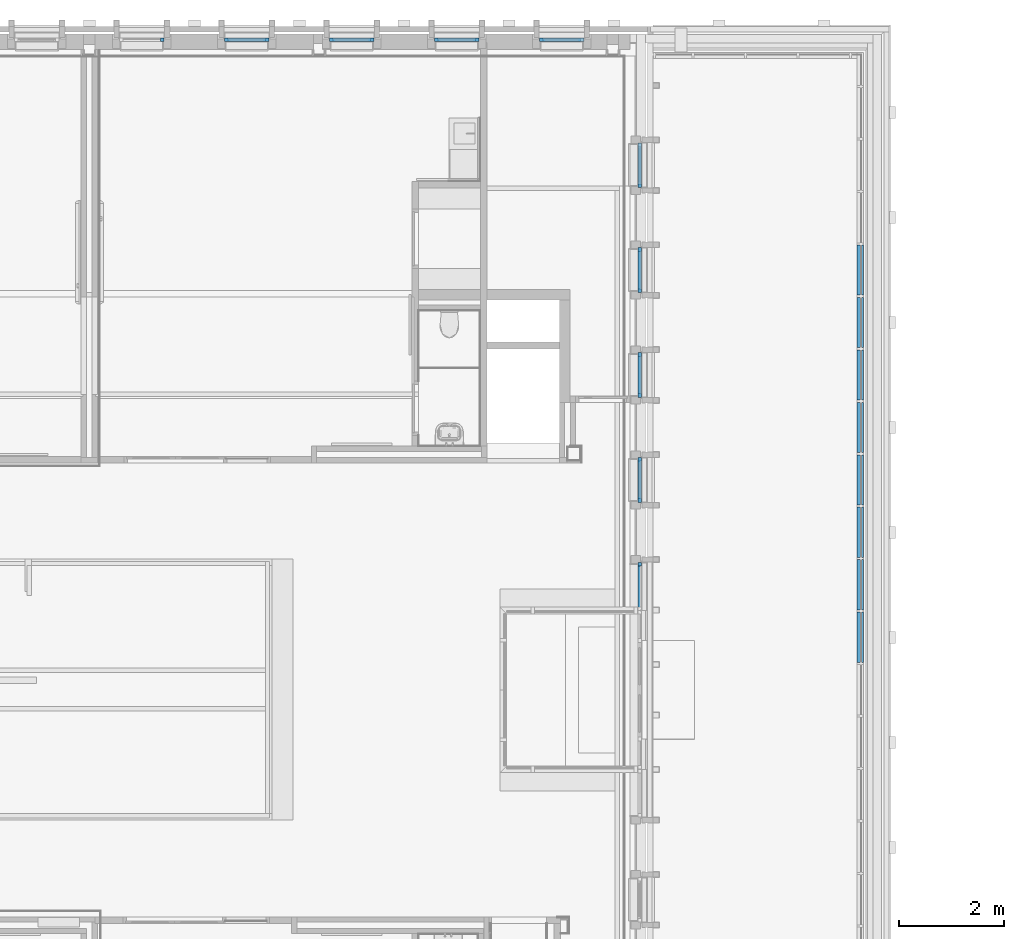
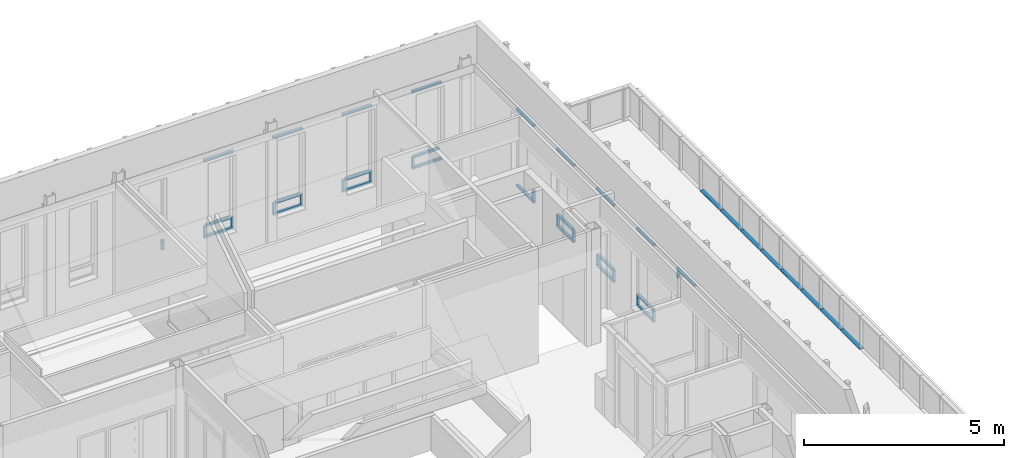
# One storey, part 15 of 118: 48 members, 11 elements without a shape of their own.
"""IFC2X3 building model written with IfcOpenShell, lengths in millimetres."""

from ifc_helpers import new_model, entity, si_unit, converted_unit, derived_unit, direction, frame, origin, origin_2d_with_axis, place, context, subcontext, project, spatial, rectangle, extrude, source, transform, mapped, material, material_list, type_object, type_shapes, element, aggregate, save


model = new_model("IFC2X3")

# Units and contexts
model_context = context("Model", 3, precision=0.01, world=origin(), true_north=direction((6.123031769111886e-17, 1.0)))
plan_context = context("Plan", 3, precision=0.01, world=origin(), true_north=direction((6.123031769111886e-17, 1.0)))
body_context = subcontext(model_context, "Body", "Model", "MODEL_VIEW")
ifc_project = project(units=[si_unit("LENGTHUNIT", "METRE", prefix="MILLI"), si_unit("AREAUNIT", "SQUARE_METRE"), si_unit("VOLUMEUNIT", "CUBIC_METRE"), converted_unit("PLANEANGLEUNIT", "DEGREE", entity("IfcRatioMeasure", 0.017453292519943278), si_unit("PLANEANGLEUNIT", "RADIAN"), dimensions=[0, 0, 0, 0, 0, 0, 0]), si_unit("MASSUNIT", "GRAM", prefix="KILO"), derived_unit("MASSDENSITYUNIT", [(si_unit("MASSUNIT", "GRAM", prefix="KILO"), 1), (si_unit("LENGTHUNIT", "METRE"), -3)]), derived_unit("IONCONCENTRATIONUNIT", [(si_unit("MASSUNIT", "GRAM", prefix="KILO"), 1), (si_unit("LENGTHUNIT", "METRE"), -3)]), derived_unit("MOMENTOFINERTIAUNIT", [(si_unit("LENGTHUNIT", "METRE"), 4)]), si_unit("TIMEUNIT", "SECOND"), si_unit("FREQUENCYUNIT", "HERTZ"), si_unit("THERMODYNAMICTEMPERATUREUNIT", "DEGREE_CELSIUS"), derived_unit("THERMALTRANSMITTANCEUNIT", [(si_unit("MASSUNIT", "GRAM", prefix="KILO"), 1), (si_unit("THERMODYNAMICTEMPERATUREUNIT", "KELVIN"), -1), (si_unit("TIMEUNIT", "SECOND"), -3)]), derived_unit("THERMALCONDUCTANCEUNIT", [(si_unit("MASSUNIT", "GRAM", prefix="KILO"), 1), (si_unit("THERMODYNAMICTEMPERATUREUNIT", "KELVIN"), -1), (si_unit("TIMEUNIT", "SECOND"), -3), (si_unit("LENGTHUNIT", "METRE"), 1)]), derived_unit("VOLUMETRICFLOWRATEUNIT", [(si_unit("LENGTHUNIT", "METRE"), 3), (si_unit("TIMEUNIT", "SECOND"), -1)]), derived_unit("MASSFLOWRATEUNIT", [(si_unit("MASSUNIT", "GRAM", prefix="KILO"), 1), (si_unit("TIMEUNIT", "SECOND"), -1)]), derived_unit("ROTATIONALFREQUENCYUNIT", [(si_unit("TIMEUNIT", "SECOND"), -1)]), si_unit("ELECTRICCURRENTUNIT", "AMPERE"), si_unit("ELECTRICVOLTAGEUNIT", "VOLT"), si_unit("POWERUNIT", "WATT"), si_unit("FORCEUNIT", "NEWTON", prefix="KILO"), si_unit("ILLUMINANCEUNIT", "LUX"), si_unit("LUMINOUSFLUXUNIT", "LUMEN"), si_unit("LUMINOUSINTENSITYUNIT", "CANDELA"), derived_unit("USERDEFINED", [(si_unit("MASSUNIT", "GRAM", prefix="KILO"), -1), (si_unit("LENGTHUNIT", "METRE"), -2), (si_unit("TIMEUNIT", "SECOND"), 3), (si_unit("LUMINOUSFLUXUNIT", "LUMEN"), 1)]), derived_unit("USERDEFINED", [(si_unit("MASSUNIT", "GRAM", prefix="KILO"), 1), (si_unit("TIMEUNIT", "SECOND"), -3), (si_unit("LENGTHUNIT", "METRE"), 3), (si_unit("ELECTRICCURRENTUNIT", "AMPERE"), -2)]), derived_unit("SOUNDPOWERUNIT", [(si_unit("MASSUNIT", "GRAM", prefix="KILO"), 1), (si_unit("TIMEUNIT", "SECOND"), -3), (si_unit("LENGTHUNIT", "METRE"), 2)]), derived_unit("SOUNDPRESSUREUNIT", [(si_unit("MASSUNIT", "GRAM", prefix="KILO"), 1), (si_unit("LENGTHUNIT", "METRE"), -1), (si_unit("TIMEUNIT", "SECOND"), -2)]), derived_unit("LINEARVELOCITYUNIT", [(si_unit("LENGTHUNIT", "METRE"), 1), (si_unit("TIMEUNIT", "SECOND"), -1)]), si_unit("PRESSUREUNIT", "PASCAL"), derived_unit("USERDEFINED", [(si_unit("MASSUNIT", "GRAM", prefix="KILO"), 1), (si_unit("LENGTHUNIT", "METRE"), -2), (si_unit("TIMEUNIT", "SECOND"), -2)]), derived_unit("LINEARFORCEUNIT", [(si_unit("MASSUNIT", "GRAM", prefix="KILO"), 1), (si_unit("TIMEUNIT", "SECOND"), -2)]), derived_unit("PLANARFORCEUNIT", [(si_unit("MASSUNIT", "GRAM", prefix="KILO"), 1), (si_unit("LENGTHUNIT", "METRE"), -1), (si_unit("TIMEUNIT", "SECOND"), -2)]), derived_unit("SPECIFICHEATCAPACITYUNIT", [(si_unit("THERMODYNAMICTEMPERATUREUNIT", "KELVIN"), -1), (si_unit("LENGTHUNIT", "METRE"), 2), (si_unit("TIMEUNIT", "SECOND"), -2)]), derived_unit("HEATINGVALUEUNIT", [(si_unit("LENGTHUNIT", "METRE"), 2), (si_unit("TIMEUNIT", "SECOND"), -2)]), derived_unit("VAPORPERMEABILITYUNIT", [(si_unit("LENGTHUNIT", "METRE"), -1), (si_unit("TIMEUNIT", "SECOND"), 1)]), derived_unit("DYNAMICVISCOSITYUNIT", [(si_unit("MASSUNIT", "GRAM", prefix="KILO"), 1), (si_unit("TIMEUNIT", "SECOND"), -1), (si_unit("LENGTHUNIT", "METRE"), -1)]), derived_unit("THERMALEXPANSIONCOEFFICIENTUNIT", [(si_unit("THERMODYNAMICTEMPERATUREUNIT", "KELVIN"), -1)]), derived_unit("MODULUSOFELASTICITYUNIT", [(si_unit("MASSUNIT", "GRAM", prefix="KILO"), 1), (si_unit("LENGTHUNIT", "METRE"), -1), (si_unit("TIMEUNIT", "SECOND"), -2)]), derived_unit("ISOTHERMALMOISTURECAPACITYUNIT", [(si_unit("LENGTHUNIT", "METRE"), 3), (si_unit("MASSUNIT", "GRAM", prefix="KILO"), -1)]), derived_unit("MOISTUREDIFFUSIVITYUNIT", [(si_unit("TIMEUNIT", "SECOND"), -1), (si_unit("LENGTHUNIT", "METRE"), 2)])], contexts=[model_context, plan_context])

# Site, building, storey
site_placement = place(None, origin())
site = spatial("IfcSite", under=ifc_project, at=site_placement, Name="Locatie", CompositionType="ELEMENT")
building_placement = place(site_placement, origin())
building = spatial("IfcBuilding", under=site, at=building_placement, Name="Bouwwerk", CompositionType="ELEMENT")
storey_placement = place(building_placement, frame((0.0, 0.0, 7800.0)))
storey = spatial("IfcBuildingStorey", under=building, at=storey_placement, Name="02 tweede verdieping", CompositionType="ELEMENT", Elevation=7800.000000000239)

# Curtain wall, member
curtain_wall_type_1 = type_object("IfcCurtainWallType", Name="Curtain Wall:NLRS_21_CW_Ontwerpkozijn_aluminium_RT72", PredefinedType="NOTDEFINED")
curtain_wall_1_placement = place(storey_placement, frame((0.0, 0.0, -7800.0)))
curtain_wall_1 = element("IfcCurtainWall", 1, at=curtain_wall_1_placement, inside=storey, type_object=curtain_wall_type_1, Name="Curtain Wall:NLRS_21_CW_Ontwerpkozijn_aluminium_RT72", ObjectType="Curtain Wall:NLRS_21_CW_Ontwerpkozijn_aluminium_RT72")
ifc_material_1 = material(Name="a_kozijn")
ifc_material_2 = material(Name="<Unnamed>")
ifc_material_list = material_list([ifc_material_2, ifc_material_1])
member_type_1 = type_object("IfcMemberType", Name="Rectangular Mullion:RT72_Vb_raam", PredefinedType="MULLION", material=ifc_material_list)
shared_shape_1 = source(origin(), body_context, "Body", "SweptSolid", [
    extrude(rectangle(XDim=71.99999999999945, YDim=68.00000000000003, at=origin_2d_with_axis()), frame((-34.0, -36.0, -850.0), z_axis=(0.0, 0.0, 1.0), x_axis=(0.0, -1.0, 0.0)), (0.0, 0.0, 1.0), 850.0000000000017),
])
type_shapes(member_type_1, [shared_shape_1])
member_1_placement = place(curtain_wall_1_placement, frame((34753.0, 27775.0, 10863.0), z_axis=(0.0, -1.0, 0.0), x_axis=(0.0, 0.0, 1.0)))
member_1 = element("IfcMember", 2, at=member_1_placement, type_object=member_type_1, material=ifc_material_1, Name="Rectangular Mullion:RT72_Vb_raam", ObjectType="Rectangular Mullion:RT72_Vb_raam", context=body_context, shape_type="MappedRepresentation", body=[
    mapped(shared_shape_1, transform((0.0, 0.0, 0.0), scale=1.0)),
])

curtain_wall_2_placement = place(storey_placement, frame((0.0, 0.0, -7800.0)))
curtain_wall_2 = element("IfcCurtainWall", 3, at=curtain_wall_2_placement, inside=storey, type_object=curtain_wall_type_1, Name="Curtain Wall:NLRS_21_CW_Ontwerpkozijn_aluminium_RT72", ObjectType="Curtain Wall:NLRS_21_CW_Ontwerpkozijn_aluminium_RT72")
member_2_placement = place(curtain_wall_2_placement, frame((34753.0, 29775.0, 10863.0), z_axis=(0.0, -1.0, 0.0), x_axis=(0.0, 0.0, 1.0)))
member_2 = element("IfcMember", 4, at=member_2_placement, type_object=member_type_1, material=ifc_material_1, Name="Rectangular Mullion:RT72_Vb_raam", ObjectType="Rectangular Mullion:RT72_Vb_raam", context=body_context, shape_type="MappedRepresentation", body=[
    mapped(shared_shape_1, transform((0.0, 0.0, 0.0), scale=1.0)),
])

curtain_wall_3_placement = place(storey_placement, frame((0.0, 0.0, -7800.0)))
curtain_wall_3 = element("IfcCurtainWall", 5, at=curtain_wall_3_placement, inside=storey, type_object=curtain_wall_type_1, Name="Curtain Wall:NLRS_21_CW_Ontwerpkozijn_aluminium_RT72", ObjectType="Curtain Wall:NLRS_21_CW_Ontwerpkozijn_aluminium_RT72")
member_3_placement = place(curtain_wall_3_placement, frame((33725.0, 34553.0, 10863.0), z_axis=(1.0, 0.0, 0.0), x_axis=(0.0, 0.0, 1.0)))
member_3 = element("IfcMember", 6, at=member_3_placement, type_object=member_type_1, material=ifc_material_1, Name="Rectangular Mullion:RT72_Vb_raam", ObjectType="Rectangular Mullion:RT72_Vb_raam", context=body_context, shape_type="MappedRepresentation", body=[
    mapped(shared_shape_1, transform((0.0, 0.0, 0.0), scale=1.0)),
])

curtain_wall_4_placement = place(storey_placement, frame((0.0, 0.0, -7800.0)))
curtain_wall_4 = element("IfcCurtainWall", 7, at=curtain_wall_4_placement, inside=storey, type_object=curtain_wall_type_1, Name="Curtain Wall:NLRS_21_CW_Ontwerpkozijn_aluminium_RT72", ObjectType="Curtain Wall:NLRS_21_CW_Ontwerpkozijn_aluminium_RT72")
member_4_placement = place(curtain_wall_4_placement, frame((29725.0, 34553.0, 10863.0), z_axis=(1.0, 0.0, 0.0), x_axis=(0.0, 0.0, 1.0)))
member_4 = element("IfcMember", 8, at=member_4_placement, type_object=member_type_1, material=ifc_material_1, Name="Rectangular Mullion:RT72_Vb_raam", ObjectType="Rectangular Mullion:RT72_Vb_raam", context=body_context, shape_type="MappedRepresentation", body=[
    mapped(shared_shape_1, transform((0.0, 0.0, 0.0), scale=1.0)),
])

curtain_wall_5_placement = place(storey_placement, frame((0.0, 0.0, -7800.0)))
curtain_wall_5 = element("IfcCurtainWall", 9, at=curtain_wall_5_placement, inside=storey, type_object=curtain_wall_type_1, Name="Curtain Wall:NLRS_21_CW_Ontwerpkozijn_aluminium_RT72", ObjectType="Curtain Wall:NLRS_21_CW_Ontwerpkozijn_aluminium_RT72")
member_5_placement = place(curtain_wall_5_placement, frame((27725.0, 34553.0, 10863.0), z_axis=(1.0, 0.0, 0.0), x_axis=(0.0, 0.0, 1.0)))
member_5 = element("IfcMember", 10, at=member_5_placement, type_object=member_type_1, material=ifc_material_1, Name="Rectangular Mullion:RT72_Vb_raam", ObjectType="Rectangular Mullion:RT72_Vb_raam", context=body_context, shape_type="MappedRepresentation", body=[
    mapped(shared_shape_1, transform((0.0, 0.0, 0.0), scale=1.0)),
])

curtain_wall_6_placement = place(storey_placement, frame((0.0, 0.0, -7800.0)))
curtain_wall_6 = element("IfcCurtainWall", 11, at=curtain_wall_6_placement, inside=storey, type_object=curtain_wall_type_1, Name="Curtain Wall:NLRS_21_CW_Ontwerpkozijn_aluminium_RT72", ObjectType="Curtain Wall:NLRS_21_CW_Ontwerpkozijn_aluminium_RT72")
member_6_placement = place(curtain_wall_6_placement, frame((34753.0, 25775.0, 10863.0), z_axis=(0.0, -1.0, 0.0), x_axis=(0.0, 0.0, 1.0)))
member_6 = element("IfcMember", 12, at=member_6_placement, type_object=member_type_1, material=ifc_material_1, Name="Rectangular Mullion:RT72_Vb_raam", ObjectType="Rectangular Mullion:RT72_Vb_raam", context=body_context, shape_type="MappedRepresentation", body=[
    mapped(shared_shape_1, transform((0.0, 0.0, 0.0), scale=1.0)),
])

curtain_wall_7_placement = place(storey_placement, frame((0.0, 0.0, -7800.0)))
curtain_wall_7 = element("IfcCurtainWall", 13, at=curtain_wall_7_placement, inside=storey, type_object=curtain_wall_type_1, Name="Curtain Wall:NLRS_21_CW_Ontwerpkozijn_aluminium_RT72", ObjectType="Curtain Wall:NLRS_21_CW_Ontwerpkozijn_aluminium_RT72")
member_7_placement = place(curtain_wall_7_placement, frame((34753.0, 31775.0, 10863.0), z_axis=(0.0, -1.0, 0.0), x_axis=(0.0, 0.0, 1.0)))
member_7 = element("IfcMember", 14, at=member_7_placement, type_object=member_type_1, material=ifc_material_1, Name="Rectangular Mullion:RT72_Vb_raam", ObjectType="Rectangular Mullion:RT72_Vb_raam", context=body_context, shape_type="MappedRepresentation", body=[
    mapped(shared_shape_1, transform((0.0, 0.0, 0.0), scale=1.0)),
])

curtain_wall_8_placement = place(storey_placement, frame((0.0, 0.0, -7800.0)))
curtain_wall_8 = element("IfcCurtainWall", 15, at=curtain_wall_8_placement, inside=storey, type_object=curtain_wall_type_1, Name="Curtain Wall:NLRS_21_CW_Ontwerpkozijn_aluminium_RT72", ObjectType="Curtain Wall:NLRS_21_CW_Ontwerpkozijn_aluminium_RT72")
member_8_placement = place(curtain_wall_8_placement, frame((31725.0, 34553.0, 10863.0), z_axis=(1.0, 0.0, 0.0), x_axis=(0.0, 0.0, 1.0)))
member_8 = element("IfcMember", 16, at=member_8_placement, type_object=member_type_1, material=ifc_material_1, Name="Rectangular Mullion:RT72_Vb_raam", ObjectType="Rectangular Mullion:RT72_Vb_raam", context=body_context, shape_type="MappedRepresentation", body=[
    mapped(shared_shape_1, transform((0.0, 0.0, 0.0), scale=1.0)),
])

# Member
member_type_2 = type_object("IfcMemberType", Name="Rectangular Mullion:RT72_Vo_raam", PredefinedType="MULLION", material=ifc_material_list)
shared_shape_2 = source(origin(), body_context, "Body", "SweptSolid", [
    extrude(rectangle(XDim=71.99999999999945, YDim=68.00000000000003, at=origin_2d_with_axis()), frame((-34.0, -36.0, -850.0), z_axis=(0.0, 0.0, 1.0), x_axis=(0.0, -1.0, 0.0)), (0.0, 0.0, 1.0), 850.0000000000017),
])
type_shapes(member_type_2, [shared_shape_2])
member_9_placement = place(curtain_wall_1_placement, frame((34753.0, 28625.0, 8473.0), z_axis=(0.0, 1.0, 0.0), x_axis=(0.0, 0.0, -1.0)))
member_9 = element("IfcMember", 17, at=member_9_placement, type_object=member_type_2, material=ifc_material_1, Name="Rectangular Mullion:RT72_Vo_raam", ObjectType="Rectangular Mullion:RT72_Vo_raam", context=body_context, shape_type="MappedRepresentation", body=[
    mapped(shared_shape_2, transform((0.0, 0.0, 0.0), scale=1.0)),
])

member_10_placement = place(curtain_wall_2_placement, frame((34753.0, 30625.0, 8473.0), z_axis=(0.0, 1.0, 0.0), x_axis=(0.0, 0.0, -1.0)))
member_10 = element("IfcMember", 18, at=member_10_placement, type_object=member_type_2, material=ifc_material_1, Name="Rectangular Mullion:RT72_Vo_raam", ObjectType="Rectangular Mullion:RT72_Vo_raam", context=body_context, shape_type="MappedRepresentation", body=[
    mapped(shared_shape_2, transform((0.0, 0.0, 0.0), scale=1.0)),
])

member_11_placement = place(curtain_wall_3_placement, frame((32875.0, 34553.0, 8473.0), z_axis=(-1.0, 0.0, 0.0), x_axis=(0.0, 0.0, -1.0)))
member_11 = element("IfcMember", 19, at=member_11_placement, type_object=member_type_2, material=ifc_material_1, Name="Rectangular Mullion:RT72_Vo_raam", ObjectType="Rectangular Mullion:RT72_Vo_raam", context=body_context, shape_type="MappedRepresentation", body=[
    mapped(shared_shape_2, transform((0.0, 0.0, 0.0), scale=1.0)),
])

member_12_placement = place(curtain_wall_4_placement, frame((28875.0, 34553.0, 8473.0), z_axis=(-1.0, 0.0, 0.0), x_axis=(0.0, 0.0, -1.0)))
member_12 = element("IfcMember", 20, at=member_12_placement, type_object=member_type_2, material=ifc_material_1, Name="Rectangular Mullion:RT72_Vo_raam", ObjectType="Rectangular Mullion:RT72_Vo_raam", context=body_context, shape_type="MappedRepresentation", body=[
    mapped(shared_shape_2, transform((0.0, 0.0, 0.0), scale=1.0)),
])

member_13_placement = place(curtain_wall_5_placement, frame((26875.0, 34553.0, 8473.0), z_axis=(-1.0, 0.0, 0.0), x_axis=(0.0, 0.0, -1.0)))
member_13 = element("IfcMember", 21, at=member_13_placement, type_object=member_type_2, material=ifc_material_1, Name="Rectangular Mullion:RT72_Vo_raam", ObjectType="Rectangular Mullion:RT72_Vo_raam", context=body_context, shape_type="MappedRepresentation", body=[
    mapped(shared_shape_2, transform((0.0, 0.0, 0.0), scale=1.0)),
])

member_14_placement = place(curtain_wall_6_placement, frame((34753.0, 26625.0, 8473.0), z_axis=(0.0, 1.0, 0.0), x_axis=(0.0, 0.0, -1.0)))
member_14 = element("IfcMember", 22, at=member_14_placement, type_object=member_type_2, material=ifc_material_1, Name="Rectangular Mullion:RT72_Vo_raam", ObjectType="Rectangular Mullion:RT72_Vo_raam", context=body_context, shape_type="MappedRepresentation", body=[
    mapped(shared_shape_2, transform((0.0, 0.0, 0.0), scale=1.0)),
])

member_15_placement = place(curtain_wall_7_placement, frame((34753.0, 32625.0, 8473.0), z_axis=(0.0, 1.0, 0.0), x_axis=(0.0, 0.0, -1.0)))
member_15 = element("IfcMember", 23, at=member_15_placement, type_object=member_type_2, material=ifc_material_1, Name="Rectangular Mullion:RT72_Vo_raam", ObjectType="Rectangular Mullion:RT72_Vo_raam", context=body_context, shape_type="MappedRepresentation", body=[
    mapped(shared_shape_2, transform((0.0, 0.0, 0.0), scale=1.0)),
])

member_16_placement = place(curtain_wall_8_placement, frame((30875.0, 34553.0, 8473.0), z_axis=(-1.0, 0.0, 0.0), x_axis=(0.0, 0.0, -1.0)))
member_16 = element("IfcMember", 24, at=member_16_placement, type_object=member_type_2, material=ifc_material_1, Name="Rectangular Mullion:RT72_Vo_raam", ObjectType="Rectangular Mullion:RT72_Vo_raam", context=body_context, shape_type="MappedRepresentation", body=[
    mapped(shared_shape_2, transform((0.0, 0.0, 0.0), scale=1.0)),
])

member_type_3 = type_object("IfcMemberType", Name="Rectangular Mullion:RT72_Hl_raam", PredefinedType="MULLION", material=ifc_material_list)
shared_shape_3 = source(origin(), body_context, "Body", "SweptSolid", [
    extrude(rectangle(XDim=71.99999999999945, YDim=68.00000000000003, at=origin_2d_with_axis()), frame((-34.0, -36.0, -301.0), z_axis=(0.0, 0.0, 1.0), x_axis=(0.0, -1.0, 0.0)), (0.0, 0.0, 1.0), 301.00000000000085),
])
type_shapes(member_type_3, [shared_shape_3])
member_17_placement = place(curtain_wall_1_placement, frame((34753.0, 27775.0, 8541.0), z_axis=(0.0, 0.0, -1.0), x_axis=(0.0, -1.0, 0.0)))
member_17 = element("IfcMember", 25, at=member_17_placement, type_object=member_type_3, material=ifc_material_1, Name="Rectangular Mullion:RT72_Hl_raam", ObjectType="Rectangular Mullion:RT72_Hl_raam", context=body_context, shape_type="MappedRepresentation", body=[
    mapped(shared_shape_3, transform((0.0, 0.0, 0.0), scale=1.0)),
])

member_18_placement = place(curtain_wall_2_placement, frame((34753.0, 29775.0, 8541.0), z_axis=(0.0, 0.0, -1.0), x_axis=(0.0, -1.0, 0.0)))
member_18 = element("IfcMember", 26, at=member_18_placement, type_object=member_type_3, material=ifc_material_1, Name="Rectangular Mullion:RT72_Hl_raam", ObjectType="Rectangular Mullion:RT72_Hl_raam", context=body_context, shape_type="MappedRepresentation", body=[
    mapped(shared_shape_3, transform((0.0, 0.0, 0.0), scale=1.0)),
])

# Curtain wall, member
curtain_wall_9_placement = place(storey_placement, frame((0.0, 0.0, -7800.0)))
curtain_wall_9 = element("IfcCurtainWall", 27, at=curtain_wall_9_placement, inside=storey, type_object=curtain_wall_type_1, Name="Curtain Wall:NLRS_21_CW_Ontwerpkozijn_aluminium_RT72", ObjectType="Curtain Wall:NLRS_21_CW_Ontwerpkozijn_aluminium_RT72")
member_19_placement = place(curtain_wall_9_placement, frame((25725.0, 34553.0, 8541.0), z_axis=(0.0, 0.0, -1.0), x_axis=(1.0, 0.0, 0.0)))
member_19 = element("IfcMember", 28, at=member_19_placement, type_object=member_type_3, material=ifc_material_1, Name="Rectangular Mullion:RT72_Hl_raam", ObjectType="Rectangular Mullion:RT72_Hl_raam", context=body_context, shape_type="MappedRepresentation", body=[
    mapped(shared_shape_3, transform((0.0, 0.0, 0.0), scale=1.0)),
])
aggregate(curtain_wall_9, [member_19])

# Member
member_20_placement = place(curtain_wall_4_placement, frame((29725.0, 34553.0, 8541.0), z_axis=(0.0, 0.0, -1.0), x_axis=(1.0, 0.0, 0.0)))
member_20 = element("IfcMember", 29, at=member_20_placement, type_object=member_type_3, material=ifc_material_1, Name="Rectangular Mullion:RT72_Hl_raam", ObjectType="Rectangular Mullion:RT72_Hl_raam", context=body_context, shape_type="MappedRepresentation", body=[
    mapped(shared_shape_3, transform((0.0, 0.0, 0.0), scale=1.0)),
])

member_21_placement = place(curtain_wall_5_placement, frame((27725.0, 34553.0, 8541.0), z_axis=(0.0, 0.0, -1.0), x_axis=(1.0, 0.0, 0.0)))
member_21 = element("IfcMember", 30, at=member_21_placement, type_object=member_type_3, material=ifc_material_1, Name="Rectangular Mullion:RT72_Hl_raam", ObjectType="Rectangular Mullion:RT72_Hl_raam", context=body_context, shape_type="MappedRepresentation", body=[
    mapped(shared_shape_3, transform((0.0, 0.0, 0.0), scale=1.0)),
])

member_22_placement = place(curtain_wall_6_placement, frame((34753.0, 25775.0, 8541.0), z_axis=(0.0, 0.0, -1.0), x_axis=(0.0, -1.0, 0.0)))
member_22 = element("IfcMember", 31, at=member_22_placement, type_object=member_type_3, material=ifc_material_1, Name="Rectangular Mullion:RT72_Hl_raam", ObjectType="Rectangular Mullion:RT72_Hl_raam", context=body_context, shape_type="MappedRepresentation", body=[
    mapped(shared_shape_3, transform((0.0, 0.0, 0.0), scale=1.0)),
])

member_23_placement = place(curtain_wall_7_placement, frame((34753.0, 31775.0, 8541.0), z_axis=(0.0, 0.0, -1.0), x_axis=(0.0, -1.0, 0.0)))
member_23 = element("IfcMember", 32, at=member_23_placement, type_object=member_type_3, material=ifc_material_1, Name="Rectangular Mullion:RT72_Hl_raam", ObjectType="Rectangular Mullion:RT72_Hl_raam", context=body_context, shape_type="MappedRepresentation", body=[
    mapped(shared_shape_3, transform((0.0, 0.0, 0.0), scale=1.0)),
])

aggregate(curtain_wall_7, [member_7, member_15, member_23])

member_24_placement = place(curtain_wall_8_placement, frame((31725.0, 34553.0, 8541.0), z_axis=(0.0, 0.0, -1.0), x_axis=(1.0, 0.0, 0.0)))
member_24 = element("IfcMember", 33, at=member_24_placement, type_object=member_type_3, material=ifc_material_1, Name="Rectangular Mullion:RT72_Hl_raam", ObjectType="Rectangular Mullion:RT72_Hl_raam", context=body_context, shape_type="MappedRepresentation", body=[
    mapped(shared_shape_3, transform((0.0, 0.0, 0.0), scale=1.0)),
])

member_type_4 = type_object("IfcMemberType", Name="Rectangular Mullion:RT72_Hr_raam", PredefinedType="MULLION", material=ifc_material_list)
shared_shape_4 = source(origin(), body_context, "Body", "SweptSolid", [
    extrude(rectangle(XDim=71.99999999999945, YDim=68.00000000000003, at=origin_2d_with_axis()), frame((-34.0, -36.0, -301.0), z_axis=(0.0, 0.0, 1.0), x_axis=(0.0, -1.0, 0.0)), (0.0, 0.0, 1.0), 301.00000000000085),
])
type_shapes(member_type_4, [shared_shape_4])
member_25_placement = place(curtain_wall_1_placement, frame((34753.0, 28625.0, 8842.0), z_axis=(0.0, 0.0, 1.0), x_axis=(0.0, 1.0, 0.0)))
member_25 = element("IfcMember", 34, at=member_25_placement, type_object=member_type_4, material=ifc_material_1, Name="Rectangular Mullion:RT72_Hr_raam", ObjectType="Rectangular Mullion:RT72_Hr_raam", context=body_context, shape_type="MappedRepresentation", body=[
    mapped(shared_shape_4, transform((0.0, 0.0, 0.0), scale=1.0)),
])

member_26_placement = place(curtain_wall_2_placement, frame((34753.0, 30625.0, 8842.0), z_axis=(0.0, 0.0, 1.0), x_axis=(0.0, 1.0, 0.0)))
member_26 = element("IfcMember", 35, at=member_26_placement, type_object=member_type_4, material=ifc_material_1, Name="Rectangular Mullion:RT72_Hr_raam", ObjectType="Rectangular Mullion:RT72_Hr_raam", context=body_context, shape_type="MappedRepresentation", body=[
    mapped(shared_shape_4, transform((0.0, 0.0, 0.0), scale=1.0)),
])

member_27_placement = place(curtain_wall_3_placement, frame((32875.0, 34553.0, 8842.0), z_axis=(0.0, 0.0, 1.0), x_axis=(-1.0, 0.0, 0.0)))
member_27 = element("IfcMember", 36, at=member_27_placement, type_object=member_type_4, material=ifc_material_1, Name="Rectangular Mullion:RT72_Hr_raam", ObjectType="Rectangular Mullion:RT72_Hr_raam", context=body_context, shape_type="MappedRepresentation", body=[
    mapped(shared_shape_4, transform((0.0, 0.0, 0.0), scale=1.0)),
])

member_28_placement = place(curtain_wall_4_placement, frame((28875.0, 34553.0, 8842.0), z_axis=(0.0, 0.0, 1.0), x_axis=(-1.0, 0.0, 0.0)))
member_28 = element("IfcMember", 37, at=member_28_placement, type_object=member_type_4, material=ifc_material_1, Name="Rectangular Mullion:RT72_Hr_raam", ObjectType="Rectangular Mullion:RT72_Hr_raam", context=body_context, shape_type="MappedRepresentation", body=[
    mapped(shared_shape_4, transform((0.0, 0.0, 0.0), scale=1.0)),
])

member_29_placement = place(curtain_wall_5_placement, frame((26875.0, 34553.0, 8842.0), z_axis=(0.0, 0.0, 1.0), x_axis=(-1.0, 0.0, 0.0)))
member_29 = element("IfcMember", 38, at=member_29_placement, type_object=member_type_4, material=ifc_material_1, Name="Rectangular Mullion:RT72_Hr_raam", ObjectType="Rectangular Mullion:RT72_Hr_raam", context=body_context, shape_type="MappedRepresentation", body=[
    mapped(shared_shape_4, transform((0.0, 0.0, 0.0), scale=1.0)),
])

member_30_placement = place(curtain_wall_6_placement, frame((34753.0, 26625.0, 8842.0), z_axis=(0.0, 0.0, 1.0), x_axis=(0.0, 1.0, 0.0)))
member_30 = element("IfcMember", 39, at=member_30_placement, type_object=member_type_4, material=ifc_material_1, Name="Rectangular Mullion:RT72_Hr_raam", ObjectType="Rectangular Mullion:RT72_Hr_raam", context=body_context, shape_type="MappedRepresentation", body=[
    mapped(shared_shape_4, transform((0.0, 0.0, 0.0), scale=1.0)),
])

member_31_placement = place(curtain_wall_8_placement, frame((30875.0, 34553.0, 8842.0), z_axis=(0.0, 0.0, 1.0), x_axis=(-1.0, 0.0, 0.0)))
member_31 = element("IfcMember", 40, at=member_31_placement, type_object=member_type_4, material=ifc_material_1, Name="Rectangular Mullion:RT72_Hr_raam", ObjectType="Rectangular Mullion:RT72_Hr_raam", context=body_context, shape_type="MappedRepresentation", body=[
    mapped(shared_shape_4, transform((0.0, 0.0, 0.0), scale=1.0)),
])

member_type_5 = type_object("IfcMemberType", Name="Rectangular Mullion:RT72_Vb_raam", PredefinedType="MULLION", material=ifc_material_list)
shared_shape_5 = source(origin(), body_context, "Body", "SweptSolid", [
    extrude(rectangle(XDim=71.99999999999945, YDim=68.00000000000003, at=origin_2d_with_axis()), frame((0.0, -36.0, -714.0), z_axis=(0.0, 0.0, 1.0), x_axis=(0.0, -1.0, 0.0)), (0.0, 0.0, 1.0), 714.0000000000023),
])
type_shapes(member_type_5, [shared_shape_5])
member_32_placement = place(curtain_wall_1_placement, frame((34753.0, 27843.0, 8842.0), z_axis=(0.0, -1.0, 0.0), x_axis=(0.0, 0.0, 1.0)))
member_32 = element("IfcMember", 41, at=member_32_placement, type_object=member_type_5, material=ifc_material_1, Name="Rectangular Mullion:RT72_Vb_raam", ObjectType="Rectangular Mullion:RT72_Vb_raam", context=body_context, shape_type="MappedRepresentation", body=[
    mapped(shared_shape_5, transform((0.0, 0.0, 0.0), scale=1.0)),
])

aggregate(curtain_wall_1, [member_1, member_9, member_17, member_25, member_32])

member_33_placement = place(curtain_wall_2_placement, frame((34753.0, 29843.0, 8842.0), z_axis=(0.0, -1.0, 0.0), x_axis=(0.0, 0.0, 1.0)))
member_33 = element("IfcMember", 42, at=member_33_placement, type_object=member_type_5, material=ifc_material_1, Name="Rectangular Mullion:RT72_Vb_raam", ObjectType="Rectangular Mullion:RT72_Vb_raam", context=body_context, shape_type="MappedRepresentation", body=[
    mapped(shared_shape_5, transform((0.0, 0.0, 0.0), scale=1.0)),
])

aggregate(curtain_wall_2, [member_2, member_10, member_18, member_26, member_33])

member_34_placement = place(curtain_wall_3_placement, frame((33657.0, 34553.0, 8842.0), z_axis=(1.0, 0.0, 0.0), x_axis=(0.0, 0.0, 1.0)))
member_34 = element("IfcMember", 43, at=member_34_placement, type_object=member_type_5, material=ifc_material_1, Name="Rectangular Mullion:RT72_Vb_raam", ObjectType="Rectangular Mullion:RT72_Vb_raam", context=body_context, shape_type="MappedRepresentation", body=[
    mapped(shared_shape_5, transform((0.0, 0.0, 0.0), scale=1.0)),
])

aggregate(curtain_wall_3, [member_3, member_11, member_27, member_34])

member_35_placement = place(curtain_wall_4_placement, frame((29657.0, 34553.0, 8842.0), z_axis=(1.0, 0.0, 0.0), x_axis=(0.0, 0.0, 1.0)))
member_35 = element("IfcMember", 44, at=member_35_placement, type_object=member_type_5, material=ifc_material_1, Name="Rectangular Mullion:RT72_Vb_raam", ObjectType="Rectangular Mullion:RT72_Vb_raam", context=body_context, shape_type="MappedRepresentation", body=[
    mapped(shared_shape_5, transform((0.0, 0.0, 0.0), scale=1.0)),
])

aggregate(curtain_wall_4, [member_4, member_12, member_20, member_28, member_35])

member_36_placement = place(curtain_wall_5_placement, frame((27657.0, 34553.0, 8842.0), z_axis=(1.0, 0.0, 0.0), x_axis=(0.0, 0.0, 1.0)))
member_36 = element("IfcMember", 45, at=member_36_placement, type_object=member_type_5, material=ifc_material_1, Name="Rectangular Mullion:RT72_Vb_raam", ObjectType="Rectangular Mullion:RT72_Vb_raam", context=body_context, shape_type="MappedRepresentation", body=[
    mapped(shared_shape_5, transform((0.0, 0.0, 0.0), scale=1.0)),
])

aggregate(curtain_wall_5, [member_5, member_13, member_21, member_29, member_36])

member_37_placement = place(curtain_wall_6_placement, frame((34753.0, 25843.0, 8842.0), z_axis=(0.0, -1.0, 0.0), x_axis=(0.0, 0.0, 1.0)))
member_37 = element("IfcMember", 46, at=member_37_placement, type_object=member_type_5, material=ifc_material_1, Name="Rectangular Mullion:RT72_Vb_raam", ObjectType="Rectangular Mullion:RT72_Vb_raam", context=body_context, shape_type="MappedRepresentation", body=[
    mapped(shared_shape_5, transform((0.0, 0.0, 0.0), scale=1.0)),
])

aggregate(curtain_wall_6, [member_6, member_14, member_22, member_30, member_37])

member_38_placement = place(curtain_wall_8_placement, frame((31657.0, 34553.0, 8842.0), z_axis=(1.0, 0.0, 0.0), x_axis=(0.0, 0.0, 1.0)))
member_38 = element("IfcMember", 47, at=member_38_placement, type_object=member_type_5, material=ifc_material_1, Name="Rectangular Mullion:RT72_Vb_raam", ObjectType="Rectangular Mullion:RT72_Vb_raam", context=body_context, shape_type="MappedRepresentation", body=[
    mapped(shared_shape_5, transform((0.0, 0.0, 0.0), scale=1.0)),
])

aggregate(curtain_wall_8, [member_8, member_16, member_24, member_31, member_38])

# Curtain wall, members
curtain_wall_10_placement = place(storey_placement, frame((0.0, 0.0, -7800.0)))
curtain_wall_10 = element("IfcCurtainWall", 48, at=curtain_wall_10_placement, inside=storey, type_object=curtain_wall_type_1, Name="Curtain Wall:NLRS_21_CW_Ontwerpkozijn_aluminium_RT72", ObjectType="Curtain Wall:NLRS_21_CW_Ontwerpkozijn_aluminium_RT72")
member_type_6 = type_object("IfcMemberType", Name="Rectangular Mullion:RT72_Hr_raam", PredefinedType="MULLION", material=ifc_material_list)
shared_shape_6 = source(origin(), body_context, "Body", "SweptSolid", [
    extrude(rectangle(XDim=71.99999999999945, YDim=68.00000000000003, at=origin_2d_with_axis()), frame((-34.0, -36.0, -239.0), z_axis=(0.0, 0.0, 1.0), x_axis=(0.0, -1.0, 0.0)), (0.0, 0.0, 1.0), 238.9999999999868),
])
type_shapes(member_type_6, [shared_shape_6])
member_39_placement = place(curtain_wall_10_placement, frame((34753.0, 24625.0, 10795.0), z_axis=(0.0, 0.0, 1.0), x_axis=(0.0, 1.0, 0.0)))
member_39 = element("IfcMember", 49, at=member_39_placement, type_object=member_type_6, material=ifc_material_1, Name="Rectangular Mullion:RT72_Hr_raam", ObjectType="Rectangular Mullion:RT72_Hr_raam", context=body_context, shape_type="MappedRepresentation", body=[
    mapped(shared_shape_6, transform((0.0, 0.0, 0.0), scale=1.0)),
])
member_type_7 = type_object("IfcMemberType", Name="Rectangular Mullion:RT72_Vb_raam", PredefinedType="MULLION", material=ifc_material_list)
shared_shape_7 = source(origin(), body_context, "Body", "SweptSolid", [
    extrude(rectangle(XDim=71.99999999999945, YDim=68.00000000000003, at=origin_2d_with_axis()), frame((-34.0, -36.0, -875.499999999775), z_axis=(0.0, 0.0, 1.0), x_axis=(0.0, -1.0, 0.0)), (0.0, 0.0, 1.0), 875.499999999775),
])
type_shapes(member_type_7, [shared_shape_7])
member_40_placement = place(curtain_wall_10_placement, frame((34753.0, 23749.49999997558, 10863.0), z_axis=(0.0, -1.0, 0.0), x_axis=(0.0, 0.0, 1.0)))
member_40 = element("IfcMember", 50, at=member_40_placement, type_object=member_type_7, material=ifc_material_1, Name="Rectangular Mullion:RT72_Vb_raam", ObjectType="Rectangular Mullion:RT72_Vb_raam", context=body_context, shape_type="MappedRepresentation", body=[
    mapped(shared_shape_7, transform((0.0, 0.0, 0.0), scale=1.0)),
])
aggregate(curtain_wall_10, [member_39, member_40])

curtain_wall_type_2 = type_object("IfcCurtainWallType", Name="Curtain Wall:railing 120x40", PredefinedType="NOTDEFINED")
curtain_wall_11_placement = place(storey_placement, frame((0.0, 0.0, -7800.0)))
curtain_wall_11 = element("IfcCurtainWall", 51, at=curtain_wall_11_placement, inside=storey, type_object=curtain_wall_type_2, Name="Curtain Wall:railing 120x40", ObjectType="Curtain Wall:railing 120x40")
ifc_material_3 = material(Name="staal")
member_type_8 = type_object("IfcMemberType", Name="Rectangular Mullion:40x120 railing", PredefinedType="MULLION", material=ifc_material_3)
shared_shape_8 = source(origin(), body_context, "Body", "SweptSolid", [
    extrude(rectangle(XDim=120.0, YDim=40.0, at=origin_2d_with_axis()), frame((-20.0, 0.0, -960.0), z_axis=(0.0, 0.0, 1.0), x_axis=(0.0, -1.0, 0.0)), (0.0, 0.0, 1.0), 959.9999999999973),
])
type_shapes(member_type_8, [shared_shape_8])
member_41_placement = place(curtain_wall_11_placement, frame((38990.0, 23720.0, 8033.0), z_axis=(0.0, -1.0, 0.0), x_axis=(0.0, 0.0, -1.0)))
member_41 = element("IfcMember", 52, at=member_41_placement, type_object=member_type_8, material=ifc_material_3, Name="Rectangular Mullion:40x120 railing", ObjectType="Rectangular Mullion:40x120 railing", context=body_context, shape_type="MappedRepresentation", body=[
    mapped(shared_shape_8, transform((0.0, 0.0, 0.0), scale=1.0)),
])
member_42_placement = place(curtain_wall_11_placement, frame((38990.0, 25720.0, 8033.0), z_axis=(0.0, -1.0, 0.0), x_axis=(0.0, 0.0, -1.0)))
member_42 = element("IfcMember", 53, at=member_42_placement, type_object=member_type_8, material=ifc_material_3, Name="Rectangular Mullion:40x120 railing", ObjectType="Rectangular Mullion:40x120 railing", context=body_context, shape_type="MappedRepresentation", body=[
    mapped(shared_shape_8, transform((0.0, 0.0, 0.0), scale=1.0)),
])
member_43_placement = place(curtain_wall_11_placement, frame((38990.0, 27720.0, 8033.0), z_axis=(0.0, -1.0, 0.0), x_axis=(0.0, 0.0, -1.0)))
member_43 = element("IfcMember", 54, at=member_43_placement, type_object=member_type_8, material=ifc_material_3, Name="Rectangular Mullion:40x120 railing", ObjectType="Rectangular Mullion:40x120 railing", context=body_context, shape_type="MappedRepresentation", body=[
    mapped(shared_shape_8, transform((0.0, 0.0, 0.0), scale=1.0)),
])
member_44_placement = place(curtain_wall_11_placement, frame((38990.0, 29720.0, 8033.0), z_axis=(0.0, -1.0, 0.0), x_axis=(0.0, 0.0, -1.0)))
member_44 = element("IfcMember", 55, at=member_44_placement, type_object=member_type_8, material=ifc_material_3, Name="Rectangular Mullion:40x120 railing", ObjectType="Rectangular Mullion:40x120 railing", context=body_context, shape_type="MappedRepresentation", body=[
    mapped(shared_shape_8, transform((0.0, 0.0, 0.0), scale=1.0)),
])
member_45_placement = place(curtain_wall_11_placement, frame((38990.0, 28720.0, 8033.0), z_axis=(0.0, -1.0, 0.0), x_axis=(0.0, 0.0, -1.0)))
member_45 = element("IfcMember", 56, at=member_45_placement, type_object=member_type_8, material=ifc_material_3, Name="Rectangular Mullion:40x120 railing", ObjectType="Rectangular Mullion:40x120 railing", context=body_context, shape_type="MappedRepresentation", body=[
    mapped(shared_shape_8, transform((0.0, 0.0, 0.0), scale=1.0)),
])
member_46_placement = place(curtain_wall_11_placement, frame((38990.0, 22720.0, 8033.0), z_axis=(0.0, -1.0, 0.0), x_axis=(0.0, 0.0, -1.0)))
member_46 = element("IfcMember", 57, at=member_46_placement, type_object=member_type_8, material=ifc_material_3, Name="Rectangular Mullion:40x120 railing", ObjectType="Rectangular Mullion:40x120 railing", context=body_context, shape_type="MappedRepresentation", body=[
    mapped(shared_shape_8, transform((0.0, 0.0, 0.0), scale=1.0)),
])
member_47_placement = place(curtain_wall_11_placement, frame((38990.0, 24720.0, 8033.0), z_axis=(0.0, -1.0, 0.0), x_axis=(0.0, 0.0, -1.0)))
member_47 = element("IfcMember", 58, at=member_47_placement, type_object=member_type_8, material=ifc_material_3, Name="Rectangular Mullion:40x120 railing", ObjectType="Rectangular Mullion:40x120 railing", context=body_context, shape_type="MappedRepresentation", body=[
    mapped(shared_shape_8, transform((0.0, 0.0, 0.0), scale=1.0)),
])
member_48_placement = place(curtain_wall_11_placement, frame((38990.0, 26720.0, 8033.0), z_axis=(0.0, -1.0, 0.0), x_axis=(0.0, 0.0, -1.0)))
member_48 = element("IfcMember", 59, at=member_48_placement, type_object=member_type_8, material=ifc_material_3, Name="Rectangular Mullion:40x120 railing", ObjectType="Rectangular Mullion:40x120 railing", context=body_context, shape_type="MappedRepresentation", body=[
    mapped(shared_shape_8, transform((0.0, 0.0, 0.0), scale=1.0)),
])
aggregate(curtain_wall_11, [member_41, member_42, member_43, member_44, member_45, member_46, member_47, member_48])

save(model, "model.ifc")
